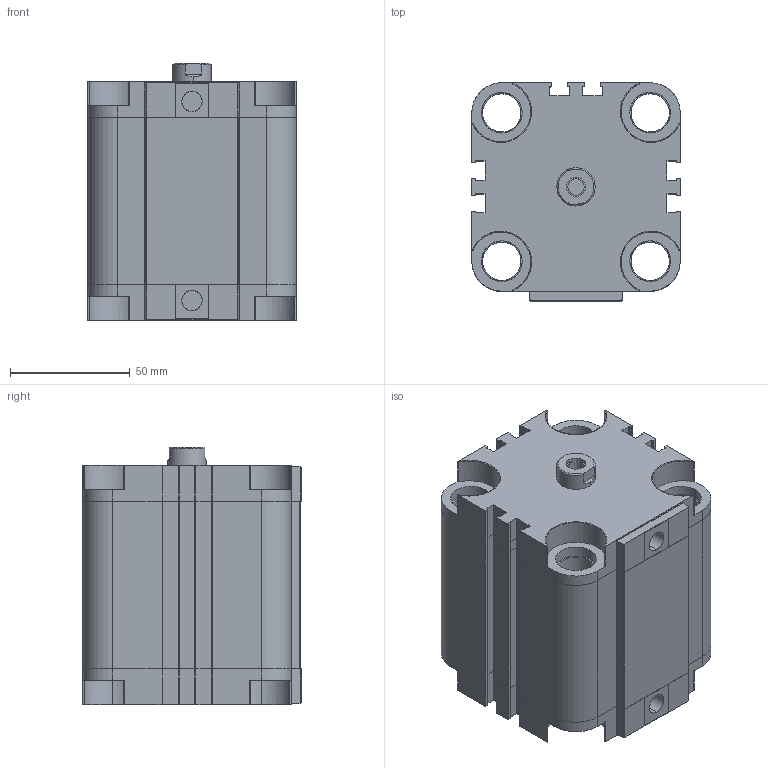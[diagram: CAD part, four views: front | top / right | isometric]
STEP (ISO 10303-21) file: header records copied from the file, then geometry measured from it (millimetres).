
FILE_DESCRIPTION (( 'STEP AP203' ), '1' );
FILE_NAME ('ADVU63X50-CYLINDER.STEP', '2015-05-20T14:00:15', ( 'user' ), ( '' ), 'SwSTEP 2.0', 'SolidWorks 2013', '' );
FILE_SCHEMA (( 'CONFIG_CONTROL_DESIGN' ));
Length unit declared in the file: millimetre
Products named in the file (6): ADVU 63 ARKA KAPAK; ADVU 63X50 BORU; ADVU 63 烰 KAPAK; ADVU 63 ORTA PÝSTON; ADVU 63X50 M尳; ADVU63X50-CYLINDER
Assembly tree (5 placements, depth 2):
  ADVU63X50-CYLINDER
    ADVU 63 ARKA KAPAK
    ADVU 63X50 BORU
    ADVU 63 烰 KAPAK
    ADVU 63 ORTA PÝSTON
    ADVU 63X50 M尳
Bounding box: 87 x 91.1 x 107.5 mm (x, y, z)
Volume: 465222.9 mm3; surface area: 127421.3 mm2
Topology: 6 solids, 6 shells, 546 faces, 1534 edges, 1023 vertices
Faces by surface type: cylinder 258, plane 231, cone 55, bspline 2
Entity records: 22417 total; most frequent: CARTESIAN_POINT 8371, ORIENTED_EDGE 3068, DIRECTION 2395, EDGE_CURVE 1534, VERTEX_POINT 1023, AXIS2_PLACEMENT_3D 823, VECTOR 749, LINE 749
